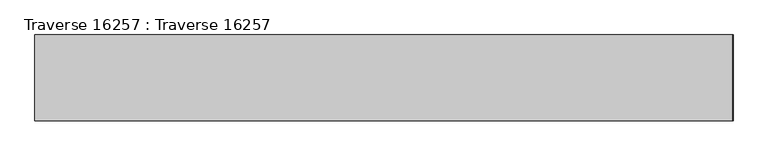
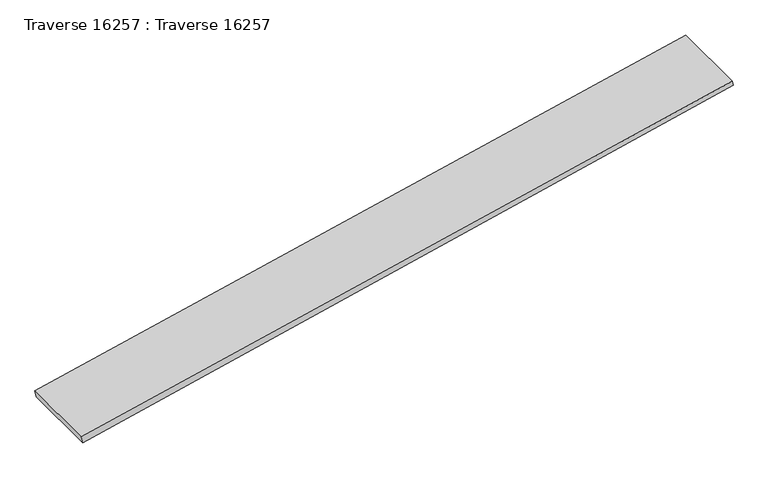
"""IFC4 building model written with IfcOpenShell, lengths in millimetres: beam geometry, Traverse 16257 : Traverse 16257."""

from ifc_helpers import new_model, si_unit, frame, origin, place, context, project, spatial, polyline, outline, extrude, source, transform, mapped, element, save


def traverse_16257_traverse_16257_f71b64b7(model_context):
    return source(origin(), model_context, "Body", "SweptSolid", [
        extrude(outline(polyline([(7227.4405163, 198.672699), (7565.5415421, 1657.4307363), (7575.5248218, 1655.1500909), (7242.0359427, 195.3384248), (7227.4405163, 198.672699)])), frame((0.0, -4390.0, 0.0), z_axis=(0.0, 1.0, 0.0), x_axis=(0.0, 0.0, 1.0)), (0.0, 0.0, 1.0), 180.0),
    ])


if __name__ == "__main__":
    model = new_model("IFC4")
    model_context = context("Model", 3, world=origin())
    ifc_project = project(units=[si_unit("LENGTHUNIT", "METRE", prefix="MILLI")], contexts=[model_context])
    site = spatial("IfcSite", under=ifc_project)
    building = spatial("IfcBuilding", under=site)
    placement = place(None, origin())
    traverse_16257_traverse_16257_shape = traverse_16257_traverse_16257_f71b64b7(model_context)
    element("IfcBeam", 1, ObjectType="Traverse 16257 : Traverse 16257", at=placement, inside=building, context=model_context, shape_type="MappedRepresentation", body=[
        mapped(traverse_16257_traverse_16257_shape, transform((0.0, 0.0, 0.0), x_axis=(1.0, 0.0, 0.0), y_axis=(0.0, 1.0, 0.0), z_axis=(0.0, 0.0, 1.0))),
    ])
    save(model, "model.ifc")
